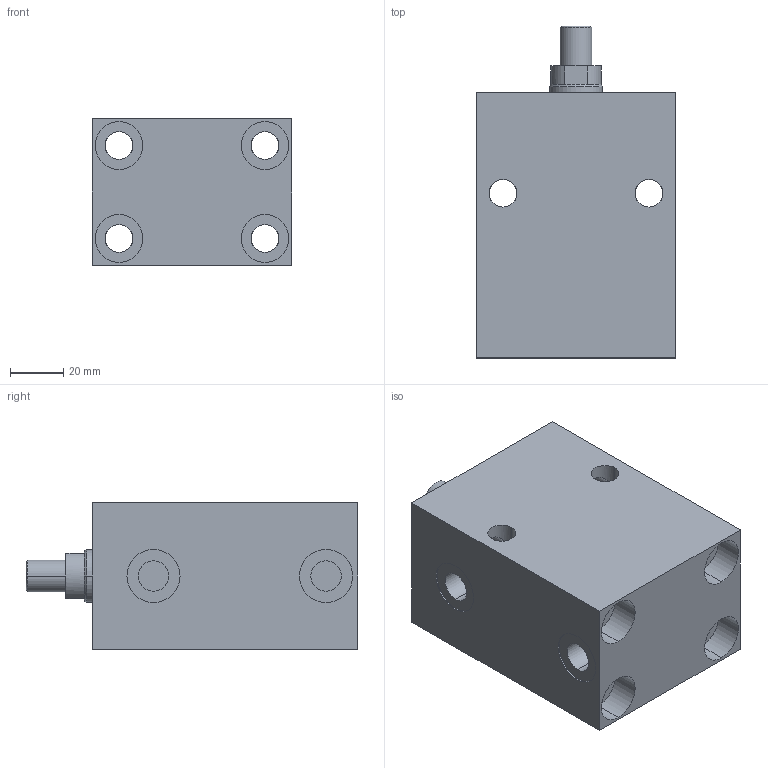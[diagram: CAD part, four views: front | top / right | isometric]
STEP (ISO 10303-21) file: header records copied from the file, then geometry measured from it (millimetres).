
FILE_DESCRIPTION (( 'STEP AP203' ), '1' );
FILE_NAME ('GERMA_Blockzylinder_600-032-050-A.STEP', '2015-06-20T18:09:29', ( '' ), ( '' ), 'SwSTEP 2.0', 'SolidWorks 2013', '' );
FILE_SCHEMA (( 'CONFIG_CONTROL_DESIGN' ));
Length unit declared in the file: millimetre
Products named in the file (3): GH-600-032_GH-600-032-050; Kolben 60x-032_Kolben DU.32-Hub50-AG; GERMA_Blockzylinder_600-032-050-A
Assembly tree (2 placements, depth 2):
  GERMA_Blockzylinder_600-032-050-A
    GH-600-032_GH-600-032-050
    Kolben 60x-032_Kolben DU.32-Hub50-AG
Bounding box: 75 x 125 x 55 mm (x, y, z)
Volume: 333710.2 mm3; surface area: 69312.4 mm2
Topology: 2 solids, 2 shells, 113 faces, 258 edges, 157 vertices
Faces by surface type: cylinder 71, plane 30, cone 12
Entity records: 3498 total; most frequent: CARTESIAN_POINT 625, DIRECTION 579, ORIENTED_EDGE 508, EDGE_CURVE 254, AXIS2_PLACEMENT_3D 239, VERTEX_POINT 157, EDGE_LOOP 145, CIRCLE 121
